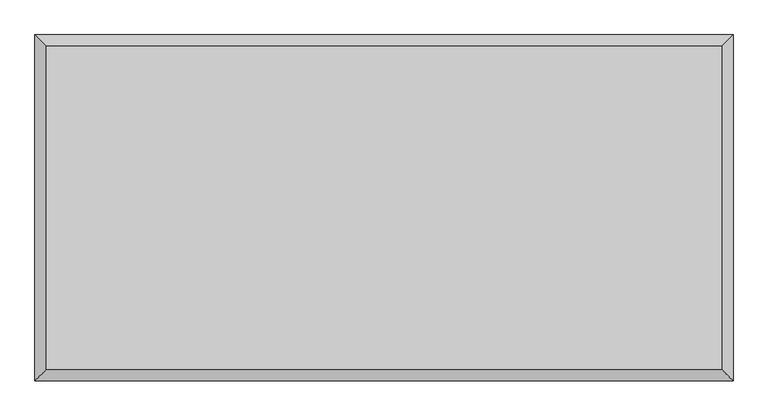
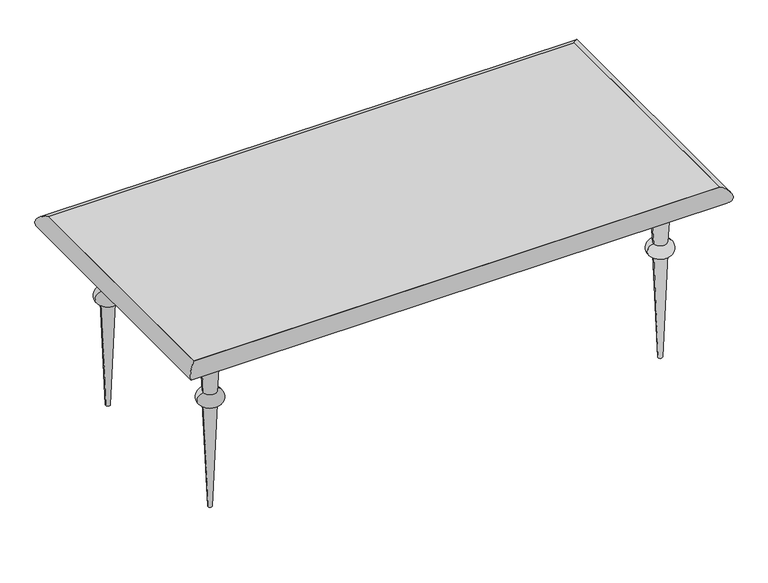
"""IFC4 building model written with IfcOpenShell, lengths in millimetres: furniture geometry, 1.Стол_Начало : 1.Стол_Начало."""

import ifcopenshell
import ifcopenshell.guid

model = None  # the IFC model being written
_history = None  # IfcOwnerHistory: only IFC2X3 demands one
_inside = {}  # id of a spatial element -> (the spatial element, [elements in it])
_under = {}  # id of a project, library or spatial element -> (it, [spatial elements below it])
_declared = {}  # id of a project -> (the project, [libraries it declares])
_typed = {}  # id of a type object -> (the type object, [elements of that type])
_made_of = {}  # id of a material, layer set ... -> (it, [elements and type objects made of it])


def new_model(schema):
    """Start an empty IFC model of exactly this schema.

    Asked for "IFC4X3", IfcOpenShell would pick the latest addendum, in which some entities
    have other attributes; the version numbers below select the first issue.
    IFC2X3 requires an IfcOwnerHistory on every rooted entity: one is made here for all.
    """
    global model, _history
    if schema == "IFC4X3":
        model = ifcopenshell.file(schema_version=(4, 3, 0, 0))
    else:
        model = ifcopenshell.file(schema=schema)
    _inside.clear()
    _under.clear()
    _declared.clear()
    _typed.clear()
    _made_of.clear()
    _history = None
    if model.schema == "IFC2X3":
        org = make("IfcOrganization", Name="unknown")
        user = make(
            "IfcPersonAndOrganization",
            ThePerson=make("IfcPerson", FamilyName="unknown"),
            TheOrganization=org,
        )
        app = make(
            "IfcApplication",
            ApplicationDeveloper=org,
            Version="unknown",
            ApplicationFullName="unknown",
            ApplicationIdentifier="unknown",
        )
        _history = make(
            "IfcOwnerHistory",
            OwningUser=user,
            OwningApplication=app,
            ChangeAction="ADDED",
            CreationDate=0,
        )
    return model


def make(cls, **values):
    """One entity of the class cls with the attributes given. An attribute that is None is left unset."""
    return model.create_entity(
        cls, **{name: value for name, value in values.items() if value is not None}
    )


def rooted(cls, **values):
    """An entity with a GlobalId (a new one), such as an element, a storey or a relation."""
    return make(cls, GlobalId=ifcopenshell.guid.new(), OwnerHistory=_history, **values)


def si_unit(unit_type, name, prefix=None):
    """IfcSIUnit, for example si_unit("LENGTHUNIT", "METRE", prefix="MILLI")."""
    return make("IfcSIUnit", UnitType=unit_type, Prefix=prefix, Name=name)


def assignment(units):
    """IfcUnitAssignment: the units of a project."""
    return None if units is None else make("IfcUnitAssignment", Units=units)


def point(xyz):
    """IfcCartesianPoint."""
    return None if xyz is None else make("IfcCartesianPoint", Coordinates=xyz)


def direction(xyz):
    """IfcDirection."""
    return None if xyz is None else make("IfcDirection", DirectionRatios=xyz)


def frame(location, z_axis=None, x_axis=None):
    """IfcAxis2Placement3D, a coordinate frame: its origin and axes. An axis left out is left unset."""
    return make(
        "IfcAxis2Placement3D",
        Location=point(location),
        Axis=direction(z_axis),
        RefDirection=direction(x_axis),
    )


def origin():
    """The frame at (0, 0, 0) with its axes left unset."""
    return frame((0.0, 0.0, 0.0))


def place(relative_to, where):
    """IfcLocalPlacement: puts the frame where relative to a parent placement (None: the world)."""
    return make(
        "IfcLocalPlacement", PlacementRelTo=relative_to, RelativePlacement=where
    )


def context(
    kind, dimensions, precision=None, world=None, true_north=None, identifier=None
):
    """IfcGeometricRepresentationContext, for example the 3D "Model" context."""
    return make(
        "IfcGeometricRepresentationContext",
        ContextIdentifier=identifier,
        ContextType=kind,
        CoordinateSpaceDimension=dimensions,
        Precision=precision,
        WorldCoordinateSystem=world,
        TrueNorth=true_north,
    )


def project(units=None, contexts=None):
    """IfcProject with its units and contexts."""
    return rooted(
        "IfcProject",
        Name="project",
        RepresentationContexts=contexts,
        UnitsInContext=assignment(units),
    )


def spatial(cls, under=None, at=None, **own):
    """A site, building, storey or space (cls), placed at a placement, below another one or the project."""
    s = rooted(cls, ObjectPlacement=at, **own)
    if under is not None:
        _under.setdefault(under.id(), (under, []))[1].append(s)
    return s


def polyline(points):
    """IfcPolyline through the points."""
    return make("IfcPolyline", Points=[point(p) for p in points])


def circle_curve(where, radius):
    """IfcCircle in the frame where."""
    return make("IfcCircle", Position=where, Radius=radius)


def ellipse_curve(where, semi_axis1, semi_axis2):
    """IfcEllipse in the frame where."""
    return make(
        "IfcEllipse", Position=where, SemiAxis1=semi_axis1, SemiAxis2=semi_axis2
    )


def trimmed(basis, trim1, trim2, sense, master):
    """IfcTrimmedCurve: the piece of a basis curve between two trims."""
    return make(
        "IfcTrimmedCurve",
        BasisCurve=basis,
        Trim1=trim1,
        Trim2=trim2,
        SenseAgreement=sense,
        MasterRepresentation=master,
    )


def outline(outer, holes=None, kind="AREA"):
    """IfcArbitraryClosedProfileDef: a profile drawn as a closed curve; with holes, ...WithVoids."""
    if holes is None:
        return make("IfcArbitraryClosedProfileDef", ProfileType=kind, OuterCurve=outer)
    return make(
        "IfcArbitraryProfileDefWithVoids",
        ProfileType=kind,
        OuterCurve=outer,
        InnerCurves=holes,
    )


def extrude(swept, where, along, depth):
    """IfcExtrudedAreaSolid: the profile swept, set in the frame where, extruded along a direction by depth."""
    return make(
        "IfcExtrudedAreaSolid",
        SweptArea=swept,
        Position=where,
        ExtrudedDirection=direction(along),
        Depth=depth,
    )


def shape(context_of_items, identifier, shape_type, items):
    """IfcShapeRepresentation: the items that make up one representation, for example the "Body"."""
    return make(
        "IfcShapeRepresentation",
        ContextOfItems=context_of_items,
        RepresentationIdentifier=identifier,
        RepresentationType=shape_type,
        Items=items,
    )


def source(mapping_origin, context_of_items, identifier, shape_type, items):
    """IfcRepresentationMap: a shape defined once, which mapped items show again and again."""
    return make(
        "IfcRepresentationMap",
        MappingOrigin=mapping_origin,
        MappedRepresentation=shape(context_of_items, identifier, shape_type, items),
    )


def transform(
    local_origin,
    x_axis=None,
    y_axis=None,
    z_axis=None,
    scale=None,
    scale2=None,
    scale3=None,
    uniform=True,
):
    """IfcCartesianTransformationOperator3D, or its non-uniform kind. x_axis, y_axis, z_axis: its Axis1, 2, 3."""
    if uniform:
        return make(
            "IfcCartesianTransformationOperator3D",
            Axis1=direction(x_axis),
            Axis2=direction(y_axis),
            LocalOrigin=point(local_origin),
            Scale=scale,
            Axis3=direction(z_axis),
        )
    return make(
        "IfcCartesianTransformationOperator3DnonUniform",
        Axis1=direction(x_axis),
        Axis2=direction(y_axis),
        LocalOrigin=point(local_origin),
        Scale=scale,
        Axis3=direction(z_axis),
        Scale2=scale2,
        Scale3=scale3,
    )


def mapped(mapping_source, mapping_target):
    """IfcMappedItem: shows the shape of a source again, moved by a transform."""
    return make(
        "IfcMappedItem", MappingSource=mapping_source, MappingTarget=mapping_target
    )


def made_of(thing, what):
    """Note that an element or type object is made of a material, layer set ...; save() writes the relation."""
    if what is not None:
        _made_of.setdefault(what.id(), (what, []))[1].append(thing)
    return thing


def element(
    cls,
    number,
    at=None,
    inside=None,
    cuts=None,
    type_object=None,
    material=None,
    context=None,
    identifier="Body",
    shape_type=None,
    held_by="IfcProductDefinitionShape",
    body=None,
    shapes=None,
    **own,
):
    """One element of the class cls, such as IfcWall. Its Tag is "e" and its number.

    at: its placement. inside: the storey or other place that contains it. cuts: it is an
    opening in that element (IfcRelVoidsElement). A single representation is given by context,
    identifier, shape_type and body (its items); several are given by shapes. held_by: the class
    of the entity that holds the representations. save() writes the other relations.
    """
    e = rooted(cls, Tag="e%d" % number, ObjectPlacement=at, **own)
    if body is not None:
        shapes = [shape(context, identifier, shape_type, body)]
    if shapes is not None:
        e.Representation = make(held_by, Representations=shapes)
    if inside is not None:
        _inside.setdefault(inside.id(), (inside, []))[1].append(e)
    if cuts is not None:
        rooted(
            "IfcRelVoidsElement", RelatingBuildingElement=cuts, RelatedOpeningElement=e
        )
    if type_object is not None:
        _typed.setdefault(type_object.id(), (type_object, []))[1].append(e)
    return made_of(e, material)


def aggregate(whole, parts):
    """IfcRelAggregates: a whole, such as a stair, and the parts it consists of."""
    return rooted("IfcRelAggregates", RelatingObject=whole, RelatedObjects=parts)


def save(model, path):
    """Write the relations noted so far, then the file.

    IfcRelAggregates (storeys below a building ...), IfcRelContainedInSpatialStructure (elements
    in a storey), IfcRelDefinesByType, IfcRelAssociatesMaterial and IfcRelDeclares: one each for
    every whole, place, type object, material and project.
    """
    for whole, parts in _under.values():
        aggregate(whole, parts)
    for where, things in _inside.values():
        rooted(
            "IfcRelContainedInSpatialStructure",
            RelatedElements=things,
            RelatingStructure=where,
        )
    for kind, things in _typed.values():
        rooted("IfcRelDefinesByType", RelatedObjects=things, RelatingType=kind)
    for what, things in _made_of.values():
        rooted("IfcRelAssociatesMaterial", RelatedObjects=things, RelatingMaterial=what)
    for by, libraries in _declared.values():
        rooted("IfcRelDeclares", RelatingContext=by, RelatedDefinitions=libraries)
    model.write(path)


def plane_surface(at):
    """IfcPlane: the flat surface through the origin of the frame at, square to its z axis."""
    return make("IfcPlane", Position=at)


def cylinder_surface(at, radius):
    """IfcCylindricalSurface: all points at the distance radius from the z axis of the frame at."""
    return make("IfcCylindricalSurface", Position=at, Radius=radius)


def revolved_surface(curve, axis_point, axis_direction):
    """IfcSurfaceOfRevolution: the curve turned about the line through axis_point along axis_direction."""
    return make(
        "IfcSurfaceOfRevolution",
        SweptCurve=make("IfcArbitraryOpenProfileDef", ProfileType="CURVE", Curve=curve),
        AxisPosition=make("IfcAxis1Placement", Location=point(axis_point), Axis=direction(axis_direction)),
    )


def advanced_brep(points, edges, surfaces, faces):
    """IfcAdvancedBrep: a solid bounded by faces that lie on surfaces and meet in shared edges.

    An edge is (start, end): straight between two places in points (the first is 0);
    or (start, end, curve); or (start, end, curve, False) where it runs against its curve.
    A face is (place in surfaces, loops), or (place, loops, False) where it looks against
    its surface's normal. A loop lists edges by number (the first is 1), with a minus sign
    where the edge is run from its end to its start. The first loop is the outer one.
    """
    corners = [point(p) for p in points]
    vertices = [make("IfcVertexPoint", VertexGeometry=c) for c in corners]
    made = []
    for start, end, *more in edges:
        made.append(
            make(
                "IfcEdgeCurve",
                EdgeStart=vertices[start],
                EdgeEnd=vertices[end],
                EdgeGeometry=more[0] if more else make("IfcPolyline", Points=[corners[start], corners[end]]),
                SameSense=more[1] if len(more) > 1 else True,
            )
        )
    hull = []
    for where, loops, *sense in faces:
        bounds = []
        for j, loop in enumerate(loops):
            ring = [make("IfcOrientedEdge", EdgeElement=made[abs(k) - 1], Orientation=k > 0) for k in loop]
            bounds.append(
                make(
                    "IfcFaceOuterBound" if j == 0 else "IfcFaceBound",
                    Bound=make("IfcEdgeLoop", EdgeList=ring),
                    Orientation=True,
                )
            )
        hull.append(make("IfcAdvancedFace", Bounds=bounds, FaceSurface=surfaces[where], SameSense=sense[0] if sense else True))
    return make("IfcAdvancedBrep", Outer=make("IfcClosedShell", CfsFaces=hull))


def furniture_11c9c1f6(model_context):
    return source(origin(), model_context, "Body", "SolidModel", [
        advanced_brep(
        [(-1250.0, 600.0, 900.0), (-1250.0, 600.0, 820.0), (-1250.0, -600.0, 820.0), (-1250.0, -600.0, 900.0), (1250.0, -600.0, 820.0), (1250.0, -600.0, 900.0), (1250.0, 600.0, 820.0), (1250.0, 600.0, 900.0)],
        [
            (0, 1, ellipse_curve(frame((-1250.0, 600.0, 860.0), z_axis=(-0.7071067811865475, -0.7071067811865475, 0.0), x_axis=(-0.7071067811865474, 0.7071067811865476, 0.0)), 56.5685425, 40.0)),
            (1, 2),
            (2, 3, ellipse_curve(frame((-1250.0, -600.0, 860.0), z_axis=(-0.7071067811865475, 0.7071067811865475, 0.0), x_axis=(0.7071067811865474, 0.7071067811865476, 0.0)), 56.5685425, 40.0)),
            (3, 0),
            (1, 0),
            (3, 2),
            (2, 4),
            (4, 5, ellipse_curve(frame((1250.0, -600.0, 860.0), z_axis=(-0.7071067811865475, -0.7071067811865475, 0.0), x_axis=(-0.7071067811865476, 0.7071067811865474, 0.0)), 56.5685425, 40.0)),
            (5, 3),
            (5, 4),
            (4, 6),
            (6, 7, ellipse_curve(frame((1250.0, 600.0, 860.0), z_axis=(0.7071067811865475, -0.7071067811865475, 0.0), x_axis=(-0.7071067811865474, -0.7071067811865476, 0.0)), 56.5685425, 40.0)),
            (7, 5),
            (7, 6),
            (6, 1),
            (0, 7),
        ],
        [
            cylinder_surface(frame((-1250.0, 600.0, 860.0), z_axis=(0.0, 1.0, 0.0), x_axis=(1.0, 0.0, 0.0)), 40.0),
            plane_surface(frame((-1250.0, 600.0, 900.0), z_axis=(1.0, 0.0, 0.0), x_axis=(0.0, -1.0, 0.0))),
            cylinder_surface(frame((-1250.0, -600.0, 860.0), z_axis=(-1.0, 0.0, 0.0), x_axis=(0.0, 1.0, 0.0)), 40.0),
            plane_surface(frame((-1250.0, -600.0, 900.0), z_axis=(0.0, 1.0, 0.0), x_axis=(1.0, 0.0, 0.0))),
            cylinder_surface(frame((1250.0, -600.0, 860.0), z_axis=(0.0, -1.0, 0.0), x_axis=(-1.0, 0.0, 0.0)), 40.0),
            plane_surface(frame((1250.0, -600.0, 900.0), z_axis=(-1.0, 0.0, 0.0), x_axis=(0.0, 1.0, 0.0))),
            cylinder_surface(frame((1250.0, 600.0, 860.0), z_axis=(1.0, 0.0, 0.0), x_axis=(0.0, -1.0, 0.0)), 40.0),
            plane_surface(frame((1250.0, 600.0, 900.0), z_axis=(0.0, -1.0, 0.0), x_axis=(-1.0, 0.0, 0.0))),
        ],
        [
            (0, [[1, 2, 3, 4]]),
            (1, [[5, -4, 6, -2]]),
            (2, [[-3, 7, 8, 9]]),
            (3, [[-6, -9, 10, -7]]),
            (4, [[-8, 11, 12, 13]]),
            (5, [[-10, -13, 14, -11]]),
            (6, [[-12, 15, -1, 16]]),
            (7, [[-14, -16, -5, -15]]),
        ],
    ),
        advanced_brep(
        [(1060.0, 420.0, 0.0), (1080.0, 420.0, 0.0), (1100.9343825, 420.0, 519.4518139), (1039.0656175, 420.0, 519.4518139), (1100.9343825, 420.0, 579.4518139), (1039.0656175, 420.0, 579.4518139), (1113.7371718, 420.0, 820.0), (1026.2628282, 420.0, 820.0), (1070.0, 420.0, 820.0), (1070.0, 420.0, 0.0)],
        [
            (0, 1, circle_curve(frame((1070.0, 420.0, 0.0), z_axis=(0.0, 0.0, 1.0), x_axis=(1.0, 0.0, 0.0)), 10.0)),
            (1, 2),
            (2, 3, circle_curve(frame((1070.0, 420.0, 519.4518139), z_axis=(0.0, 0.0, -1.0), x_axis=(1.0, 0.0, 0.0)), 30.9343825)),
            (3, 0),
            (1, 0, circle_curve(frame((1070.0, 420.0, 0.0), z_axis=(0.0, 0.0, 1.0), x_axis=(1.0, 0.0, 0.0)), 10.0)),
            (3, 2, circle_curve(frame((1070.0, 420.0, 519.4518139), z_axis=(0.0, 0.0, -1.0), x_axis=(1.0, 0.0, 0.0)), 30.9343825)),
            (2, 4, circle_curve(frame((1100.9343825, 420.0, 549.4518139), z_axis=(0.0, -1.0, 0.0), x_axis=(1.0, 0.0, 0.0)), 30.0)),
            (4, 5, circle_curve(frame((1070.0, 420.0, 579.4518139), z_axis=(0.0, 0.0, -1.0), x_axis=(1.0, 0.0, 0.0)), 30.9343825)),
            (5, 3, circle_curve(frame((1039.0656175, 420.0, 549.4518139), z_axis=(0.0, -1.0, 0.0), x_axis=(-1.0, 0.0, 0.0)), 30.0)),
            (5, 4, circle_curve(frame((1070.0, 420.0, 579.4518139), z_axis=(0.0, 0.0, -1.0), x_axis=(1.0, 0.0, 0.0)), 30.9343825)),
            (4, 6),
            (6, 7, circle_curve(frame((1070.0, 420.0, 820.0), z_axis=(0.0, 0.0, -1.0), x_axis=(1.0, 0.0, 0.0)), 43.7371718)),
            (7, 5),
            (7, 6, circle_curve(frame((1070.0, 420.0, 820.0), z_axis=(0.0, 0.0, -1.0), x_axis=(1.0, 0.0, 0.0)), 43.7371718)),
            (6, 8),
            (8, 7),
            (9, 1),
            (0, 9),
        ],
        [
            revolved_surface(polyline([(1100.9343825, 420.0, 519.4518139), (1080.0, 420.0, 0.0)]), (1070.0, 420.0, 2558.4), (0.0, 0.0, -1.0)),
            revolved_surface(trimmed(ellipse_curve(frame((1100.9343825, 420.0, 549.4518139), z_axis=(0.0, 1.0, 0.0), x_axis=(1.0, 0.0, 0.0)), 30.0, 30.0), [point((1100.9343825, 420.0, 579.4518139))], [point((1100.9343825, 420.0, 519.4518139))], True, "CARTESIAN"), (1070.0, 420.0, 2558.4), (0.0, 0.0, -1.0)),
            revolved_surface(polyline([(1113.7371718, 420.0, 820.0), (1100.9343825, 420.0, 579.4518139)]), (1070.0, 420.0, 2558.4), (0.0, 0.0, -1.0)),
            plane_surface(frame((1070.0, 420.0, 820.0), z_axis=(0.0, 0.0, 1.0), x_axis=(1.0, 0.0, 0.0))),
            plane_surface(frame((1070.0, 420.0, 0.0), z_axis=(0.0, 0.0, -1.0), x_axis=(1.0, 0.0, 0.0))),
        ],
        [
            (0, [[1, 2, 3, 4]]),
            (0, [[5, -4, 6, -2]]),
            (1, [[-3, 7, 8, 9]]),
            (1, [[-6, -9, 10, -7]]),
            (2, [[-8, 11, 12, 13]]),
            (2, [[-10, -13, 14, -11]]),
            (3, [[-12, 15, 16]]),
            (3, [[-14, -16, -15]]),
            (4, [[17, -1, 18]]),
            (4, [[-18, -5, -17]]),
        ],
    ),
        advanced_brep(
        [(-1039.0656175, 420.0, 519.4518139), (-1100.9343825, 420.0, 519.4518139), (-1080.0, 420.0, 0.0), (-1060.0, 420.0, 0.0), (-1039.0656175, 420.0, 579.4518139), (-1100.9343825, 420.0, 579.4518139), (-1026.2628282, 420.0, 820.0), (-1113.7371718, 420.0, 820.0), (-1070.0, 420.0, 820.0), (-1070.0, 420.0, 0.0)],
        [
            (0, 1, circle_curve(frame((-1070.0, 420.0, 519.4518139), z_axis=(0.0, 0.0, -1.0), x_axis=(-1.0, 0.0, 0.0)), 30.9343825)),
            (1, 2),
            (2, 3, circle_curve(frame((-1070.0, 420.0, 0.0), z_axis=(0.0, 0.0, 1.0), x_axis=(-1.0, 0.0, 0.0)), 10.0)),
            (3, 0),
            (1, 0, circle_curve(frame((-1070.0, 420.0, 519.4518139), z_axis=(0.0, 0.0, -1.0), x_axis=(-1.0, 0.0, 0.0)), 30.9343825)),
            (3, 2, circle_curve(frame((-1070.0, 420.0, 0.0), z_axis=(0.0, 0.0, 1.0), x_axis=(-1.0, 0.0, 0.0)), 10.0)),
            (4, 5, circle_curve(frame((-1070.0, 420.0, 579.4518139), z_axis=(0.0, 0.0, -1.0), x_axis=(-1.0, 0.0, 0.0)), 30.9343825)),
            (5, 1, circle_curve(frame((-1100.9343825, 420.0, 549.4518139), z_axis=(0.0, -1.0, 0.0), x_axis=(-1.0, 0.0, 0.0)), 30.0)),
            (0, 4, circle_curve(frame((-1039.0656175, 420.0, 549.4518139), z_axis=(0.0, -1.0, 0.0), x_axis=(1.0, 0.0, 0.0)), 30.0)),
            (5, 4, circle_curve(frame((-1070.0, 420.0, 579.4518139), z_axis=(0.0, 0.0, -1.0), x_axis=(-1.0, 0.0, 0.0)), 30.9343825)),
            (6, 7, circle_curve(frame((-1070.0, 420.0, 820.0), z_axis=(0.0, 0.0, -1.0), x_axis=(-1.0, 0.0, 0.0)), 43.7371718)),
            (7, 5),
            (4, 6),
            (7, 6, circle_curve(frame((-1070.0, 420.0, 820.0), z_axis=(0.0, 0.0, -1.0), x_axis=(-1.0, 0.0, 0.0)), 43.7371718)),
            (8, 7),
            (6, 8),
            (2, 9),
            (9, 3),
        ],
        [
            revolved_surface(polyline([(-1080.0, 420.0, 0.0), (-1100.9343825, 420.0, 519.4518139)]), (-1070.0, 420.0, 2558.4), (0.0, 0.0, 1.0)),
            revolved_surface(trimmed(ellipse_curve(frame((-1100.9343825, 420.0, 549.4518139), z_axis=(0.0, 1.0, 0.0), x_axis=(-1.0, 0.0, 0.0)), 30.0, 30.0), [point((-1100.9343825, 420.0, 519.4518139))], [point((-1100.9343825, 420.0, 579.4518139))], True, "CARTESIAN"), (-1070.0, 420.0, 2558.4), (0.0, 0.0, 1.0)),
            revolved_surface(polyline([(-1100.9343825, 420.0, 579.4518139), (-1113.7371718, 420.0, 820.0)]), (-1070.0, 420.0, 2558.4), (0.0, 0.0, 1.0)),
            plane_surface(frame((-1070.0, 420.0, 820.0), z_axis=(0.0, 0.0, 1.0), x_axis=(-1.0, 0.0, 0.0))),
            plane_surface(frame((-1070.0, 420.0, 0.0), z_axis=(0.0, 0.0, -1.0), x_axis=(-1.0, 0.0, 0.0))),
        ],
        [
            (0, [[1, 2, 3, 4]]),
            (0, [[5, -4, 6, -2]]),
            (1, [[7, 8, -1, 9]]),
            (1, [[10, -9, -5, -8]]),
            (2, [[11, 12, -7, 13]]),
            (2, [[14, -13, -10, -12]]),
            (3, [[15, -11, 16]]),
            (3, [[-16, -14, -15]]),
            (4, [[-3, 17, 18]]),
            (4, [[-6, -18, -17]]),
        ],
    ),
        advanced_brep(
        [(1060.0, -420.0, 0.0), (1080.0, -420.0, 0.0), (1100.9343825, -420.0, 519.4518139), (1039.0656175, -420.0, 519.4518139), (1100.9343825, -420.0, 579.4518139), (1039.0656175, -420.0, 579.4518139), (1116.6854455, -420.0, 820.0), (1023.3145545, -420.0, 820.0), (1070.0, -420.0, 820.0), (1070.0, -420.0, 0.0)],
        [
            (0, 1, circle_curve(frame((1070.0, -420.0, 0.0), z_axis=(0.0, 0.0, 1.0), x_axis=(1.0, 0.0, 0.0)), 10.0)),
            (1, 2),
            (2, 3, circle_curve(frame((1070.0, -420.0, 519.4518139), z_axis=(0.0, 0.0, -1.0), x_axis=(1.0, 0.0, 0.0)), 30.9343825)),
            (3, 0),
            (1, 0, circle_curve(frame((1070.0, -420.0, 0.0), z_axis=(0.0, 0.0, 1.0), x_axis=(1.0, 0.0, 0.0)), 10.0)),
            (3, 2, circle_curve(frame((1070.0, -420.0, 519.4518139), z_axis=(0.0, 0.0, -1.0), x_axis=(1.0, 0.0, 0.0)), 30.9343825)),
            (2, 4, circle_curve(frame((1100.9343825, -420.0, 549.4518139), z_axis=(0.0, -1.0, 0.0), x_axis=(1.0, 0.0, 0.0)), 30.0)),
            (4, 5, circle_curve(frame((1070.0, -420.0, 579.4518139), z_axis=(0.0, 0.0, -1.0), x_axis=(1.0, 0.0, 0.0)), 30.9343825)),
            (5, 3, circle_curve(frame((1039.0656175, -420.0, 549.4518139), z_axis=(0.0, -1.0, 0.0), x_axis=(-1.0, 0.0, 0.0)), 30.0)),
            (5, 4, circle_curve(frame((1070.0, -420.0, 579.4518139), z_axis=(0.0, 0.0, -1.0), x_axis=(1.0, 0.0, 0.0)), 30.9343825)),
            (4, 6),
            (6, 7, circle_curve(frame((1070.0, -420.0, 820.0), z_axis=(0.0, 0.0, -1.0), x_axis=(1.0, 0.0, 0.0)), 46.6854455)),
            (7, 5),
            (7, 6, circle_curve(frame((1070.0, -420.0, 820.0), z_axis=(0.0, 0.0, -1.0), x_axis=(1.0, 0.0, 0.0)), 46.6854455)),
            (6, 8),
            (8, 7),
            (9, 1),
            (0, 9),
        ],
        [
            revolved_surface(polyline([(1100.9343825, -420.0, 519.4518139), (1080.0, -420.0, 0.0)]), (1070.0, -420.0, 2558.4), (0.0, 0.0, -1.0)),
            revolved_surface(trimmed(ellipse_curve(frame((1100.9343825, -420.0, 549.4518139), z_axis=(0.0, 1.0, 0.0), x_axis=(1.0, 0.0, 0.0)), 30.0, 30.0), [point((1100.9343825, -420.0, 579.4518139))], [point((1100.9343825, -420.0, 519.4518139))], True, "CARTESIAN"), (1070.0, -420.0, 2558.4), (0.0, 0.0, -1.0)),
            revolved_surface(polyline([(1116.6854455, -420.0, 820.0), (1100.9343825, -420.0, 579.4518139)]), (1070.0, -420.0, 2558.4), (0.0, 0.0, -1.0)),
            plane_surface(frame((1070.0, -420.0, 820.0), z_axis=(0.0, 0.0, 1.0), x_axis=(1.0, 0.0, 0.0))),
            plane_surface(frame((1070.0, -420.0, 0.0), z_axis=(0.0, 0.0, -1.0), x_axis=(1.0, 0.0, 0.0))),
        ],
        [
            (0, [[1, 2, 3, 4]]),
            (0, [[5, -4, 6, -2]]),
            (1, [[-3, 7, 8, 9]]),
            (1, [[-6, -9, 10, -7]]),
            (2, [[-8, 11, 12, 13]]),
            (2, [[-10, -13, 14, -11]]),
            (3, [[-12, 15, 16]]),
            (3, [[-14, -16, -15]]),
            (4, [[17, -1, 18]]),
            (4, [[-18, -5, -17]]),
        ],
    ),
        advanced_brep(
        [(-1039.0656175, -420.0, 519.4518139), (-1100.9343825, -420.0, 519.4518139), (-1080.0, -420.0, 0.0), (-1060.0, -420.0, 0.0), (-1039.0656175, -420.0, 579.4518139), (-1100.9343825, -420.0, 579.4518139), (-1026.2628282, -420.0, 820.0), (-1113.7371718, -420.0, 820.0), (-1070.0, -420.0, 820.0), (-1070.0, -420.0, 0.0)],
        [
            (0, 1, circle_curve(frame((-1070.0, -420.0, 519.4518139), z_axis=(0.0, 0.0, -1.0), x_axis=(-1.0, 0.0, 0.0)), 30.9343825)),
            (1, 2),
            (2, 3, circle_curve(frame((-1070.0, -420.0, 0.0), z_axis=(0.0, 0.0, 1.0), x_axis=(-1.0, 0.0, 0.0)), 10.0)),
            (3, 0),
            (1, 0, circle_curve(frame((-1070.0, -420.0, 519.4518139), z_axis=(0.0, 0.0, -1.0), x_axis=(-1.0, 0.0, 0.0)), 30.9343825)),
            (3, 2, circle_curve(frame((-1070.0, -420.0, 0.0), z_axis=(0.0, 0.0, 1.0), x_axis=(-1.0, 0.0, 0.0)), 10.0)),
            (4, 5, circle_curve(frame((-1070.0, -420.0, 579.4518139), z_axis=(0.0, 0.0, -1.0), x_axis=(-1.0, 0.0, 0.0)), 30.9343825)),
            (5, 1, circle_curve(frame((-1100.9343825, -420.0, 549.4518139), z_axis=(0.0, -1.0, 0.0), x_axis=(-1.0, 0.0, 0.0)), 30.0)),
            (0, 4, circle_curve(frame((-1039.0656175, -420.0, 549.4518139), z_axis=(0.0, -1.0, 0.0), x_axis=(1.0, 0.0, 0.0)), 30.0)),
            (5, 4, circle_curve(frame((-1070.0, -420.0, 579.4518139), z_axis=(0.0, 0.0, -1.0), x_axis=(-1.0, 0.0, 0.0)), 30.9343825)),
            (6, 7, circle_curve(frame((-1070.0, -420.0, 820.0), z_axis=(0.0, 0.0, -1.0), x_axis=(-1.0, 0.0, 0.0)), 43.7371718)),
            (7, 5),
            (4, 6),
            (7, 6, circle_curve(frame((-1070.0, -420.0, 820.0), z_axis=(0.0, 0.0, -1.0), x_axis=(-1.0, 0.0, 0.0)), 43.7371718)),
            (8, 7),
            (6, 8),
            (2, 9),
            (9, 3),
        ],
        [
            revolved_surface(polyline([(-1080.0, -420.0, 0.0), (-1100.9343825, -420.0, 519.4518139)]), (-1070.0, -420.0, 2558.4), (0.0, 0.0, 1.0)),
            revolved_surface(trimmed(ellipse_curve(frame((-1100.9343825, -420.0, 549.4518139), z_axis=(0.0, 1.0, 0.0), x_axis=(-1.0, 0.0, 0.0)), 30.0, 30.0), [point((-1100.9343825, -420.0, 519.4518139))], [point((-1100.9343825, -420.0, 579.4518139))], True, "CARTESIAN"), (-1070.0, -420.0, 2558.4), (0.0, 0.0, 1.0)),
            revolved_surface(polyline([(-1100.9343825, -420.0, 579.4518139), (-1113.7371718, -420.0, 820.0)]), (-1070.0, -420.0, 2558.4), (0.0, 0.0, 1.0)),
            plane_surface(frame((-1070.0, -420.0, 820.0), z_axis=(0.0, 0.0, 1.0), x_axis=(-1.0, 0.0, 0.0))),
            plane_surface(frame((-1070.0, -420.0, 0.0), z_axis=(0.0, 0.0, -1.0), x_axis=(-1.0, 0.0, 0.0))),
        ],
        [
            (0, [[1, 2, 3, 4]]),
            (0, [[5, -4, 6, -2]]),
            (1, [[7, 8, -1, 9]]),
            (1, [[10, -9, -5, -8]]),
            (2, [[11, 12, -7, 13]]),
            (2, [[14, -13, -10, -12]]),
            (3, [[15, -11, 16]]),
            (3, [[-16, -14, -15]]),
            (4, [[-3, 17, 18]]),
            (4, [[-6, -18, -17]]),
        ],
    ),
        extrude(outline(polyline([(1250.0, 600.0), (1250.0, -600.0), (-1250.0, -600.0), (-1250.0, 600.0), (1250.0, 600.0)])), frame((0.0, 0.0, 820.0), z_axis=(0.0, 0.0, 1.0), x_axis=(1.0, 0.0, 0.0)), (0.0, 0.0, 1.0), 80.0),
    ])


if __name__ == "__main__":
    model = new_model("IFC4")
    model_context = context("Model", 3, world=origin())
    ifc_project = project(units=[si_unit("LENGTHUNIT", "METRE", prefix="MILLI")], contexts=[model_context])
    site = spatial("IfcSite", under=ifc_project)
    building = spatial("IfcBuilding", under=site)
    placement = place(None, origin())
    furniture_shape = furniture_11c9c1f6(model_context)
    element("IfcFurniture", 1, ObjectType="1.Стол_Начало : 1.Стол_Начало", at=placement, inside=building, context=model_context, shape_type="MappedRepresentation", body=[
        mapped(furniture_shape, transform((0.0, 0.0, 0.0), x_axis=(1.0, 0.0, 0.0), y_axis=(0.0, 1.0, 0.0), z_axis=(0.0, 0.0, 1.0))),
    ])
    save(model, "model.ifc")
